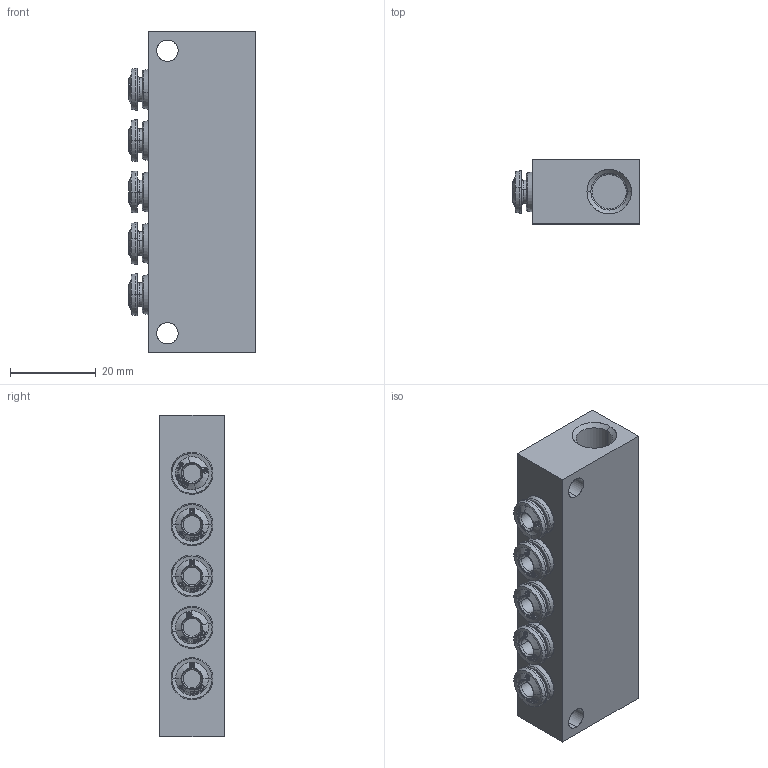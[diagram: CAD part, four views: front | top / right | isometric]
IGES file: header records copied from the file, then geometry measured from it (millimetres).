
Start section: SolidWorks IGES file using analytic representation for surfaces
Global section: file name: K:\Disegni Esecutivi\Serie 55000\ASSIEMI_55000\50900N\ASSIEMI_PIENI_50900\5090000N01.IGS; native system: SolidWorks 2008; preprocessor: SolidWorks 2008; author: cad02; date: 090225.080647; units: millimetre
Bounding box: 29.5 x 15 x 75 mm (x, y, z)
Surface area: 9810 mm2 (no closed solid volume)
Topology: 0 solids, 0 shells, 913 faces, 9780 edges, 9780 vertices
Faces by surface type: bspline 673, revolution 240
